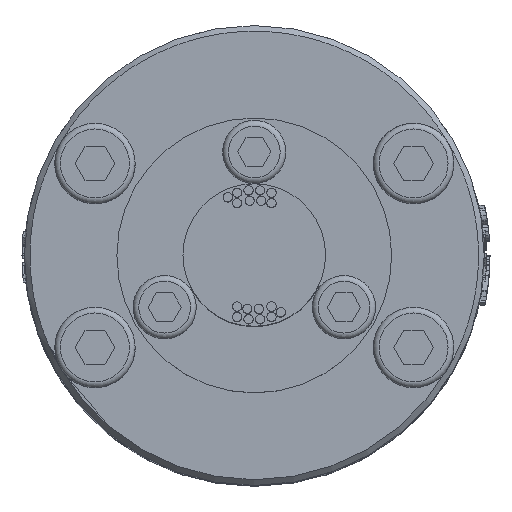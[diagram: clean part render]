
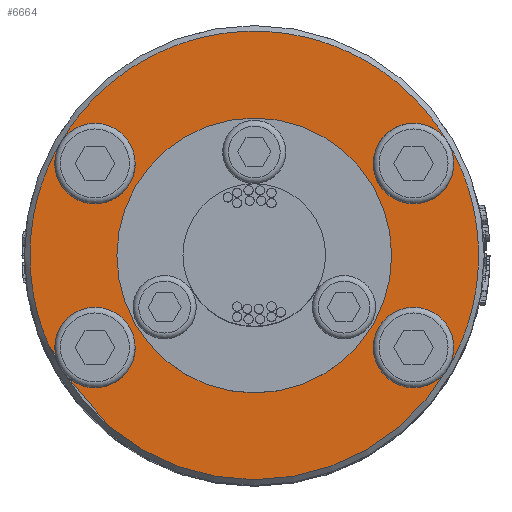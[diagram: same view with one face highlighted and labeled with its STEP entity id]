
A CAD part, top view. The second image highlights one B-rep face of the part: STEP entity #6664.
In plain terms, the highlighted planar face has unit normal (0, 0, 1).
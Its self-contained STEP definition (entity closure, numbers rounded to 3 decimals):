
#5080=PLANE('',#21365);
#6664=ADVANCED_FACE('',(#7986,#7987),#5080,.T.);
#7986=FACE_BOUND('',#8450,.T.);
#7987=FACE_BOUND('',#8451,.T.);
#8450=EDGE_LOOP('',(#10026,#10027,#10028,#10029,#10030,#10031,#10032,#10033));
#8451=EDGE_LOOP('',(#10034));
#10026=ORIENTED_EDGE('',*,*,#18050,.T.);
#10027=ORIENTED_EDGE('',*,*,#17970,.F.);
#10028=ORIENTED_EDGE('',*,*,#18049,.T.);
#10029=ORIENTED_EDGE('',*,*,#18033,.F.);
#10030=ORIENTED_EDGE('',*,*,#18048,.T.);
#10031=ORIENTED_EDGE('',*,*,#18012,.F.);
#10032=ORIENTED_EDGE('',*,*,#18051,.T.);
#10033=ORIENTED_EDGE('',*,*,#17991,.F.);
#10034=ORIENTED_EDGE('',*,*,#17952,.F.);
#15870=VERTEX_POINT('',#25393);
#15888=VERTEX_POINT('',#25449);
#15903=VERTEX_POINT('',#25495);
#15918=VERTEX_POINT('',#25541);
#15933=VERTEX_POINT('',#25587);
#17952=EDGE_CURVE('',#15870,#15870,#20985,.T.);
#17970=EDGE_CURVE('',#15888,#15888,#20997,.T.);
#17991=EDGE_CURVE('',#15903,#15903,#21000,.T.);
#18012=EDGE_CURVE('',#15918,#15918,#21003,.T.);
#18033=EDGE_CURVE('',#15933,#15933,#21006,.T.);
#18048=EDGE_CURVE('',#15933,#15918,#21009,.T.);
#18049=EDGE_CURVE('',#15888,#15933,#21010,.T.);
#18050=EDGE_CURVE('',#15903,#15888,#21011,.T.);
#18051=EDGE_CURVE('',#15918,#15903,#21012,.T.);
#20985=CIRCLE('',#21274,11.95);
#20997=CIRCLE('',#21306,3.5);
#21000=CIRCLE('',#21319,3.5);
#21003=CIRCLE('',#21332,3.5);
#21006=CIRCLE('',#21345,3.5);
#21009=CIRCLE('',#21358,19.5);
#21010=CIRCLE('',#21359,19.5);
#21011=CIRCLE('',#21360,19.5);
#21012=CIRCLE('',#21361,19.5);
#21274=AXIS2_PLACEMENT_3D('',#25392,#22331,#22332);
#21306=AXIS2_PLACEMENT_3D('',#25448,#22401,#22402);
#21319=AXIS2_PLACEMENT_3D('',#25494,#22445,#22446);
#21332=AXIS2_PLACEMENT_3D('',#25540,#22489,#22490);
#21345=AXIS2_PLACEMENT_3D('',#25586,#22533,#22534);
#21358=AXIS2_PLACEMENT_3D('',#25620,#22571,#22572);
#21359=AXIS2_PLACEMENT_3D('',#25621,#22573,#22574);
#21360=AXIS2_PLACEMENT_3D('',#25622,#22575,#22576);
#21361=AXIS2_PLACEMENT_3D('',#25623,#22577,#22578);
#21365=AXIS2_PLACEMENT_3D('',#25628,#22585,#22586);
#22331=DIRECTION('',(0.,0.,1.));
#22332=DIRECTION('',(0.,1.,0.));
#22401=DIRECTION('',(0.,0.,1.));
#22402=DIRECTION('',(1.,0.,0.));
#22445=DIRECTION('',(0.,0.,1.));
#22446=DIRECTION('',(1.,0.,0.));
#22489=DIRECTION('',(0.,0.,1.));
#22490=DIRECTION('',(1.,0.,0.));
#22533=DIRECTION('',(0.,0.,1.));
#22534=DIRECTION('',(1.,0.,0.));
#22571=DIRECTION('',(0.,0.,1.));
#22572=DIRECTION('',(1.,0.,0.));
#22573=DIRECTION('',(0.,0.,1.));
#22574=DIRECTION('',(1.,0.,0.));
#22575=DIRECTION('',(0.,0.,1.));
#22576=DIRECTION('',(1.,0.,0.));
#22577=DIRECTION('',(0.,0.,1.));
#22578=DIRECTION('',(1.,0.,0.));
#22585=DIRECTION('',(0.,0.,1.));
#22586=DIRECTION('',(1.,0.,0.));
#25392=CARTESIAN_POINT('',(0.,0.,63.));
#25393=CARTESIAN_POINT('',(0.,11.95,63.));
#25448=CARTESIAN_POINT('',(13.856,8.,63.));
#25449=CARTESIAN_POINT('',(16.887,9.75,63.));
#25494=CARTESIAN_POINT('',(13.856,-8.,63.));
#25495=CARTESIAN_POINT('',(16.887,-9.75,63.));
#25540=CARTESIAN_POINT('',(-13.856,-8.,63.));
#25541=CARTESIAN_POINT('',(-16.887,-9.75,63.));
#25586=CARTESIAN_POINT('',(-13.856,8.,63.));
#25587=CARTESIAN_POINT('',(-16.887,9.75,63.));
#25620=CARTESIAN_POINT('',(0.,0.,63.));
#25621=CARTESIAN_POINT('',(0.,0.,63.));
#25622=CARTESIAN_POINT('',(0.,0.,63.));
#25623=CARTESIAN_POINT('',(0.,0.,63.));
#25628=CARTESIAN_POINT('',(0.,0.,63.));
